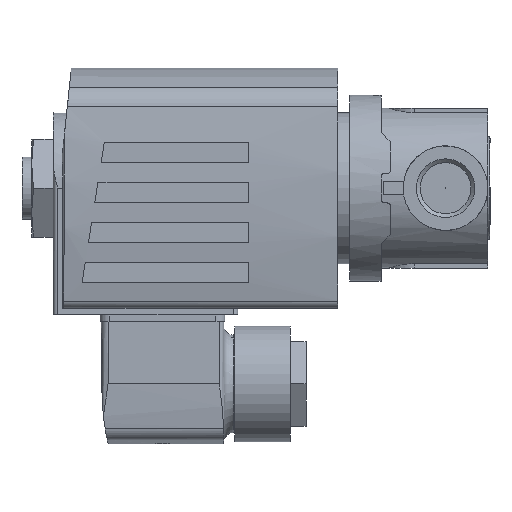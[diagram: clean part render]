
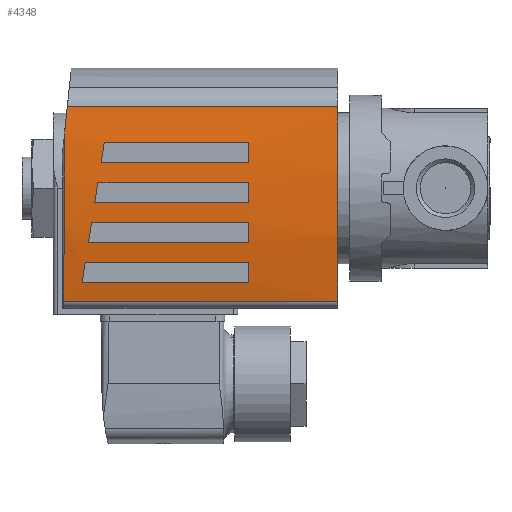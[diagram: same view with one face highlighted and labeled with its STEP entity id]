
A CAD part, left-side view. The second image highlights one B-rep face of the part: STEP entity #4348.
In plain terms, the highlighted cylindrical face has radius 130 mm (diameter 260 mm), a partial arc.
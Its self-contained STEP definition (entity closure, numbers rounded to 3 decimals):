
#52=ELLIPSE('',#4619,130.497,130.);
#53=ELLIPSE('',#4621,131.628,130.);
#54=ELLIPSE('',#4623,131.628,130.);
#55=ELLIPSE('',#4626,130.716,130.);
#56=ELLIPSE('',#4627,131.628,130.);
#57=ELLIPSE('',#4629,131.628,130.);
#87=CYLINDRICAL_SURFACE('',#4620,130.);
#227=CIRCLE('',#4622,130.);
#228=CIRCLE('',#4624,130.);
#229=CIRCLE('',#4625,130.);
#230=CIRCLE('',#4628,130.);
#231=CIRCLE('',#4630,130.);
#443=ORIENTED_EDGE('',*,*,#1403,.F.);
#444=ORIENTED_EDGE('',*,*,#1404,.F.);
#445=ORIENTED_EDGE('',*,*,#1405,.F.);
#446=ORIENTED_EDGE('',*,*,#1406,.F.);
#447=ORIENTED_EDGE('',*,*,#1407,.F.);
#448=ORIENTED_EDGE('',*,*,#1408,.F.);
#449=ORIENTED_EDGE('',*,*,#1409,.F.);
#450=ORIENTED_EDGE('',*,*,#1410,.F.);
#451=ORIENTED_EDGE('',*,*,#1401,.F.);
#452=ORIENTED_EDGE('',*,*,#1394,.T.);
#453=ORIENTED_EDGE('',*,*,#1411,.T.);
#454=ORIENTED_EDGE('',*,*,#1412,.F.);
#455=ORIENTED_EDGE('',*,*,#1413,.F.);
#456=ORIENTED_EDGE('',*,*,#1414,.F.);
#457=ORIENTED_EDGE('',*,*,#1415,.F.);
#458=ORIENTED_EDGE('',*,*,#1416,.F.);
#459=ORIENTED_EDGE('',*,*,#1417,.F.);
#460=ORIENTED_EDGE('',*,*,#1418,.F.);
#461=ORIENTED_EDGE('',*,*,#1419,.F.);
#462=ORIENTED_EDGE('',*,*,#1420,.F.);
#463=ORIENTED_EDGE('',*,*,#1421,.F.);
#1394=EDGE_CURVE('',#1870,#1869,#2166,.T.);
#1401=EDGE_CURVE('',#1870,#1875,#52,.T.);
#1403=EDGE_CURVE('',#1876,#1877,#53,.T.);
#1404=EDGE_CURVE('',#1878,#1876,#2170,.F.);
#1405=EDGE_CURVE('',#1879,#1878,#227,.T.);
#1406=EDGE_CURVE('',#1877,#1879,#2171,.T.);
#1407=EDGE_CURVE('',#1880,#1881,#2172,.T.);
#1408=EDGE_CURVE('',#1882,#1880,#54,.T.);
#1409=EDGE_CURVE('',#1883,#1882,#2173,.F.);
#1410=EDGE_CURVE('',#1881,#1883,#228,.T.);
#1411=EDGE_CURVE('',#1869,#1884,#229,.T.);
#1412=EDGE_CURVE('',#1885,#1884,#2174,.T.);
#1413=EDGE_CURVE('',#1875,#1885,#55,.T.);
#1414=EDGE_CURVE('',#1886,#1887,#56,.T.);
#1415=EDGE_CURVE('',#1888,#1886,#2175,.F.);
#1416=EDGE_CURVE('',#1889,#1888,#230,.T.);
#1417=EDGE_CURVE('',#1887,#1889,#2176,.T.);
#1418=EDGE_CURVE('',#1890,#1891,#57,.T.);
#1419=EDGE_CURVE('',#1892,#1890,#2177,.F.);
#1420=EDGE_CURVE('',#1893,#1892,#231,.T.);
#1421=EDGE_CURVE('',#1891,#1893,#2178,.T.);
#1869=VERTEX_POINT('',#6221);
#1870=VERTEX_POINT('',#6223);
#1875=VERTEX_POINT('',#6237);
#1876=VERTEX_POINT('',#6241);
#1877=VERTEX_POINT('',#6242);
#1878=VERTEX_POINT('',#6244);
#1879=VERTEX_POINT('',#6246);
#1880=VERTEX_POINT('',#6249);
#1881=VERTEX_POINT('',#6250);
#1882=VERTEX_POINT('',#6252);
#1883=VERTEX_POINT('',#6254);
#1884=VERTEX_POINT('',#6257);
#1885=VERTEX_POINT('',#6259);
#1886=VERTEX_POINT('',#6262);
#1887=VERTEX_POINT('',#6263);
#1888=VERTEX_POINT('',#6265);
#1889=VERTEX_POINT('',#6267);
#1890=VERTEX_POINT('',#6270);
#1891=VERTEX_POINT('',#6271);
#1892=VERTEX_POINT('',#6273);
#1893=VERTEX_POINT('',#6275);
#2166=LINE('',#6222,#2434);
#2170=LINE('',#6243,#2438);
#2171=LINE('',#6247,#2439);
#2172=LINE('',#6248,#2440);
#2173=LINE('',#6253,#2441);
#2174=LINE('',#6258,#2442);
#2175=LINE('',#6264,#2443);
#2176=LINE('',#6268,#2444);
#2177=LINE('',#6272,#2445);
#2178=LINE('',#6276,#2446);
#2434=VECTOR('',#5113,1000.);
#2438=VECTOR('',#5135,1000.);
#2439=VECTOR('',#5138,1000.);
#2440=VECTOR('',#5139,1000.);
#2441=VECTOR('',#5142,1000.);
#2442=VECTOR('',#5147,1000.);
#2443=VECTOR('',#5152,1000.);
#2444=VECTOR('',#5155,1000.);
#2445=VECTOR('',#5158,1000.);
#2446=VECTOR('',#5161,1000.);
#2678=EDGE_LOOP('',(#443,#444,#445,#446));
#2679=EDGE_LOOP('',(#447,#448,#449,#450));
#2680=EDGE_LOOP('',(#451,#452,#453,#454,#455));
#2681=EDGE_LOOP('',(#456,#457,#458,#459));
#2682=EDGE_LOOP('',(#460,#461,#462,#463));
#2949=FACE_BOUND('',#2678,.T.);
#2950=FACE_BOUND('',#2679,.T.);
#2951=FACE_BOUND('',#2680,.T.);
#2952=FACE_BOUND('',#2681,.T.);
#2953=FACE_BOUND('',#2682,.T.);
#4348=ADVANCED_FACE('',(#2949,#2950,#2951,#2952,#2953),#87,.T.);
#4619=AXIS2_PLACEMENT_3D('',#6236,#5128,#5129);
#4620=AXIS2_PLACEMENT_3D('',#6239,#5131,#5132);
#4621=AXIS2_PLACEMENT_3D('',#6240,#5133,#5134);
#4622=AXIS2_PLACEMENT_3D('',#6245,#5136,#5137);
#4623=AXIS2_PLACEMENT_3D('',#6251,#5140,#5141);
#4624=AXIS2_PLACEMENT_3D('',#6255,#5143,#5144);
#4625=AXIS2_PLACEMENT_3D('',#6256,#5145,#5146);
#4626=AXIS2_PLACEMENT_3D('',#6260,#5148,#5149);
#4627=AXIS2_PLACEMENT_3D('',#6261,#5150,#5151);
#4628=AXIS2_PLACEMENT_3D('',#6266,#5153,#5154);
#4629=AXIS2_PLACEMENT_3D('',#6269,#5156,#5157);
#4630=AXIS2_PLACEMENT_3D('',#6274,#5159,#5160);
#5113=DIRECTION('',(0.,-1.,0.));
#5128=DIRECTION('',(0.,0.996,0.087));
#5129=DIRECTION('',(0.,-0.087,0.996));
#5131=DIRECTION('',(0.,-1.,0.));
#5132=DIRECTION('',(0.,0.,-1.));
#5133=DIRECTION('',(-0.157,-0.988,0.));
#5134=DIRECTION('',(0.988,-0.157,0.));
#5135=DIRECTION('',(0.,-1.,0.));
#5136=DIRECTION('',(0.,1.,0.));
#5137=DIRECTION('',(0.,0.,1.));
#5138=DIRECTION('',(0.,-1.,0.));
#5139=DIRECTION('',(0.,-1.,0.));
#5140=DIRECTION('',(-0.157,-0.988,0.));
#5141=DIRECTION('',(0.988,-0.157,0.));
#5142=DIRECTION('',(0.,-1.,0.));
#5143=DIRECTION('',(0.,1.,0.));
#5144=DIRECTION('',(0.,0.,1.));
#5145=DIRECTION('',(0.,1.,0.));
#5146=DIRECTION('',(1.,0.,0.));
#5147=DIRECTION('',(0.,-1.,0.));
#5148=DIRECTION('',(0.105,0.995,0.));
#5149=DIRECTION('',(0.995,-0.105,0.));
#5150=DIRECTION('',(-0.157,-0.988,0.));
#5151=DIRECTION('',(0.988,-0.157,0.));
#5152=DIRECTION('',(0.,-1.,0.));
#5153=DIRECTION('',(0.,1.,0.));
#5154=DIRECTION('',(0.,0.,1.));
#5155=DIRECTION('',(0.,-1.,0.));
#5156=DIRECTION('',(-0.157,-0.988,0.));
#5157=DIRECTION('',(0.988,-0.157,0.));
#5158=DIRECTION('',(0.,-1.,0.));
#5159=DIRECTION('',(0.,1.,0.));
#5160=DIRECTION('',(0.,0.,1.));
#5161=DIRECTION('',(0.,-1.,0.));
#6221=CARTESIAN_POINT('',(-25.391,-39.4,18.646));
#6222=CARTESIAN_POINT('',(-25.391,22.6,18.646));
#6223=CARTESIAN_POINT('',(-25.391,22.281,18.646));
#6236=CARTESIAN_POINT('',(0.,33.435,-108.85));
#6237=CARTESIAN_POINT('',(11.681,22.108,20.624));
#6239=CARTESIAN_POINT('',(0.,22.6,-108.85));
#6240=CARTESIAN_POINT('',(0.,14.727,-108.85));
#6241=CARTESIAN_POINT('',(1.25,14.529,21.144));
#6242=CARTESIAN_POINT('',(-3.25,15.243,21.109));
#6243=CARTESIAN_POINT('',(1.25,22.6,21.144));
#6244=CARTESIAN_POINT('',(1.25,-19.4,21.144));
#6245=CARTESIAN_POINT('',(0.,-19.4,-108.85));
#6246=CARTESIAN_POINT('',(-3.25,-19.4,21.109));
#6247=CARTESIAN_POINT('',(-3.25,22.6,21.109));
#6248=CARTESIAN_POINT('',(-21.25,22.6,19.401));
#6249=CARTESIAN_POINT('',(-21.25,18.1,19.401));
#6250=CARTESIAN_POINT('',(-21.25,-19.4,19.401));
#6251=CARTESIAN_POINT('',(0.,14.727,-108.85));
#6252=CARTESIAN_POINT('',(-16.75,17.386,20.066));
#6253=CARTESIAN_POINT('',(-16.75,22.6,20.066));
#6254=CARTESIAN_POINT('',(-16.75,-19.4,20.066));
#6255=CARTESIAN_POINT('',(0.,-19.4,-108.85));
#6256=CARTESIAN_POINT('',(0.,-39.4,-108.85));
#6257=CARTESIAN_POINT('',(18.286,-39.4,19.857));
#6258=CARTESIAN_POINT('',(18.286,22.6,19.857));
#6259=CARTESIAN_POINT('',(18.286,21.414,19.857));
#6260=CARTESIAN_POINT('',(0.,23.336,-108.85));
#6261=CARTESIAN_POINT('',(0.,14.727,-108.85));
#6262=CARTESIAN_POINT('',(-7.75,15.957,20.919));
#6263=CARTESIAN_POINT('',(-12.25,16.671,20.572));
#6264=CARTESIAN_POINT('',(-7.75,22.6,20.919));
#6265=CARTESIAN_POINT('',(-7.75,-19.4,20.919));
#6266=CARTESIAN_POINT('',(0.,-19.4,-108.85));
#6267=CARTESIAN_POINT('',(-12.25,-19.4,20.572));
#6268=CARTESIAN_POINT('',(-12.25,22.6,20.572));
#6269=CARTESIAN_POINT('',(0.,14.727,-108.85));
#6270=CARTESIAN_POINT('',(10.25,13.1,20.745));
#6271=CARTESIAN_POINT('',(5.75,13.814,21.023));
#6272=CARTESIAN_POINT('',(10.25,22.6,20.745));
#6273=CARTESIAN_POINT('',(10.25,-19.4,20.745));
#6274=CARTESIAN_POINT('',(0.,-19.4,-108.85));
#6275=CARTESIAN_POINT('',(5.75,-19.4,21.023));
#6276=CARTESIAN_POINT('',(5.75,22.6,21.023));
